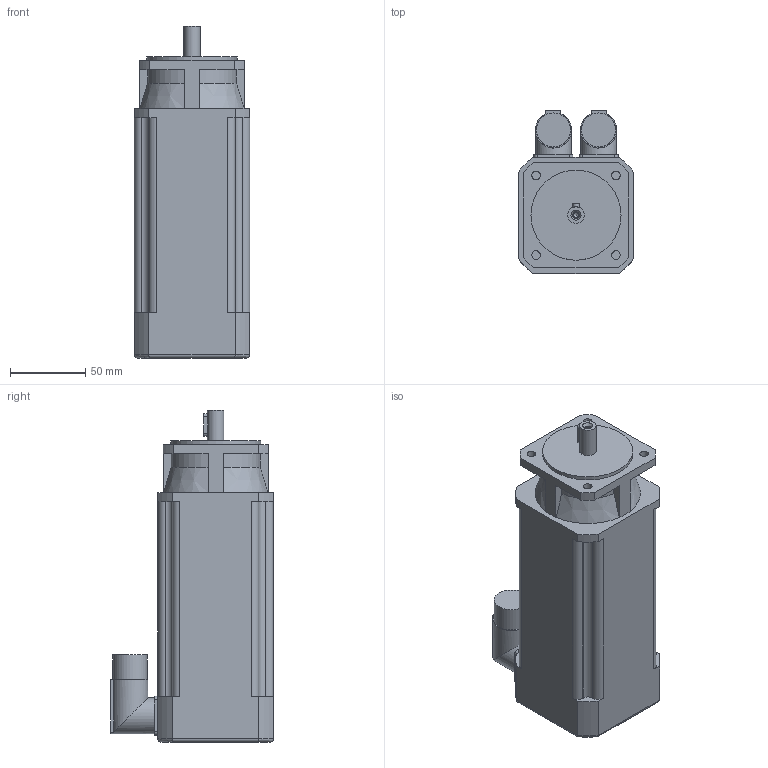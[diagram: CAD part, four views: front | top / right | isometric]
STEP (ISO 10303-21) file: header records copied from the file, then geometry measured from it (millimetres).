
FILE_DESCRIPTION(/* description */ (''),/* implementation_level */ '2;1');
FILE_NAME(/* name */ '\\Lafnas01\disegni\Archivi Lafert\3D\CAD 3D\MODELLI\Assiemi clienti\Serad\Modelli 3D Serad\B36I\Resolver\Res With Brake\B36E2Ixx6B052033.ipt.stp',/* time_stamp */ '2015-09-07T10:49:09+02:00',/* author */ ('Pastrello Ylenia'),/* organization */ (''),/* preprocessor_version */ 'ST-DEVELOPER v15.6',/* originating_system */ 'Autodesk Inventor 2015',/* authorisation */ '');
FILE_SCHEMA (('AUTOMOTIVE_DESIGN { 1 0 10303 214 3 1 1 }'));
Length unit declared in the file: millimetre
Products named in the file (1): B36E2Ixx6B052033
Bounding box: 77 x 108.5 x 221 mm (x, y, z)
Volume: 1102156.8 mm3; surface area: 80039 mm2
Topology: 1 solids, 1 shells, 137 faces, 372 edges, 244 vertices
Faces by surface type: plane 66, cylinder 56, cone 11, torus 4
Full cylindrical faces by diameter (mm): 3.242 x1, 4.3 x1, 5.8 x4, 11 x1, 22.7 x2, 24 x2, 60 x1
Entity records: 4352 total; most frequent: CARTESIAN_POINT 890, DIRECTION 726, ORIENTED_EDGE 702, EDGE_CURVE 351, AXIS2_PLACEMENT_3D 259, VERTEX_POINT 239, LINE 208, VECTOR 208
